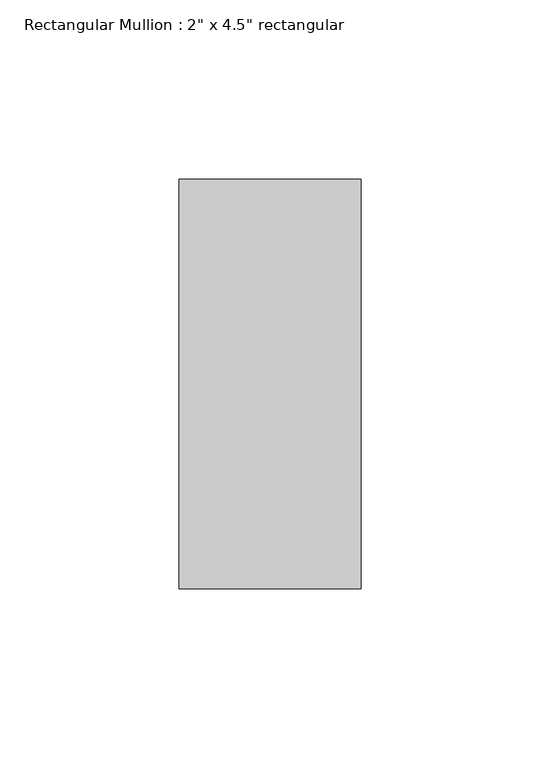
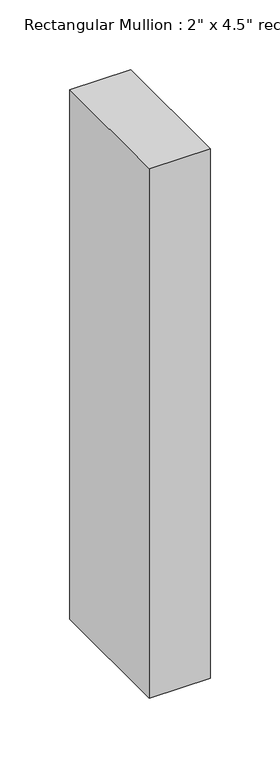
"""IFC4 building model written with IfcOpenShell, lengths in millimetres: member geometry."""

from ifc_helpers import new_model, si_unit, frame, origin, place, context, project, spatial, polyline, outline, extrude, source, transform, mapped, element, save


def member_25b26a38(model_context):
    return source(origin(), model_context, "Body", "SweptSolid", [
        extrude(outline(polyline([(0.0, 57.15), (0.0, -57.15), (-50.8, -57.15), (-50.8, 57.15), (0.0, 57.15)])), frame((0.0, 0.0, -464.6378761), z_axis=(0.0, 0.0, 1.0), x_axis=(1.0, 0.0, 0.0)), (0.0, 0.0, 1.0), 464.6378761),
    ])


if __name__ == "__main__":
    model = new_model("IFC4")
    model_context = context("Model", 3, world=origin())
    ifc_project = project(units=[si_unit("LENGTHUNIT", "METRE", prefix="MILLI")], contexts=[model_context])
    site = spatial("IfcSite", under=ifc_project)
    building = spatial("IfcBuilding", under=site)
    placement = place(None, origin())
    member_shape = member_25b26a38(model_context)
    element("IfcMember", 1, ObjectType="Rectangular Mullion : 2\" x 4.5\" rectangular", at=placement, inside=building, context=model_context, shape_type="MappedRepresentation", body=[
        mapped(member_shape, transform((0.0, 0.0, 0.0), x_axis=(1.0, 0.0, 0.0), y_axis=(0.0, 1.0, 0.0), z_axis=(0.0, 0.0, 1.0))),
    ])
    save(model, "model.ifc")
